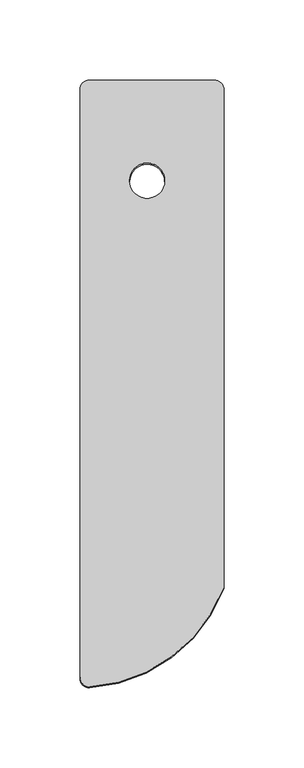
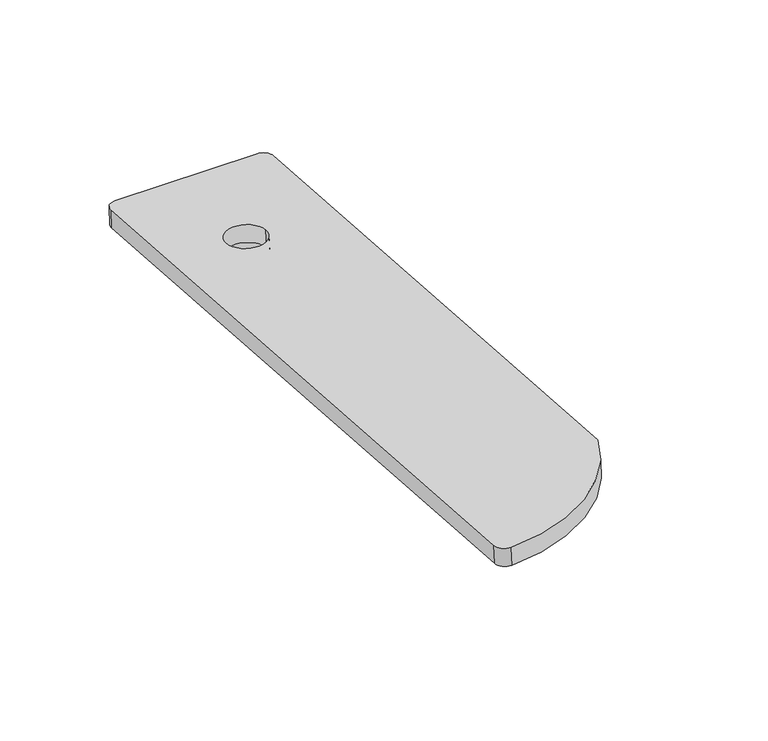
"""IFC4 building model written with IfcOpenShell, lengths in millimetres: proxy geometry, ML PhotonRoof Beaver Brick Premium : 0,5X-P."""

from ifc_helpers import new_model, si_unit, point, frame, frame_2d, origin, place, context, project, spatial, polyline, circle_curve, trimmed, segment, composite_curve, outline, extrude, source, transform, mapped, element, save


def specialty_equipment_927044ca(model_context):
    return source(origin(), model_context, "Body", "SweptSolid", [
        extrude(outline(composite_curve([segment(polyline([(0.0, -12.0), (-367.8123166, -12.0)]), True, "CONTINUOUS"), segment(trimmed(circle_curve(frame_2d((-367.8123166, -6.0)), 6.0), [point((-367.8123166, -12.0))], [point((-373.8123165, -6.0))], False, "CARTESIAN"), True, "CONTINUOUS"), segment(polyline([(-373.8123165, -6.0), (-373.8123165, 72.0)]), True, "CONTINUOUS"), segment(trimmed(circle_curve(frame_2d((-367.8123166, 72.0)), 6.0), [point((-373.8123165, 72.0))], [point((-367.8123166, 78.0))], False, "CARTESIAN"), True, "CONTINUOUS"), segment(polyline([(-367.8123166, 78.0), (-56.4057304, 78.0)]), True, "CONTINUOUS"), segment(trimmed(circle_curve(frame_2d((-89.8123166, -12.0)), 96.0), [point((-56.4057304, 78.0))], [point((5.9999999, -6.0))], False, "CARTESIAN"), True, "CONTINUOUS"), segment(trimmed(circle_curve(frame_2d((0.0, -6.0)), 6.0), [point((5.9999999, -6.0))], [point((0.0, -12.0))], False, "CARTESIAN"), True, "CONTINUOUS")], self_intersect=False), holes=[composite_curve([segment(trimmed(circle_curve(frame_2d((-310.8123165, 30.0)), 11.0), [point((-310.8123165, 41.0))], [point((-310.8123165, 19.0))], True, "CARTESIAN"), True, "CONTINUOUS"), segment(trimmed(circle_curve(frame_2d((-310.8123165, 30.0)), 11.0), [point((-310.8123165, 19.0))], [point((-310.8123165, 41.0))], True, "CARTESIAN"), True, "CONTINUOUS")], self_intersect=False)]), frame((12.0, -311.051832, 22.0746461), z_axis=(0.0, 0.0707897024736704, 0.997491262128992), x_axis=(0.0, -0.997491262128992, 0.0707897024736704)), (0.0, 0.0, 1.0), 10.0),
        extrude(outline(polyline([(44.9032038, 0.0), (44.9032038, -23.75), (-5.0967962, -23.75), (-5.0967962, 0.0), (44.9032038, 0.0)])), frame((25.0967962, 44.8719219, -17.0261079), z_axis=(0.0, 0.0707897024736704, 0.997491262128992), x_axis=(1.0, 0.0, 0.0)), (0.0, 0.0, 1.0), 13.8069239),
    ])


if __name__ == "__main__":
    model = new_model("IFC4")
    model_context = context("Model", 3, world=origin())
    ifc_project = project(units=[si_unit("LENGTHUNIT", "METRE", prefix="MILLI")], contexts=[model_context])
    site = spatial("IfcSite", under=ifc_project)
    building = spatial("IfcBuilding", under=site)
    placement = place(None, origin())
    specialty_equipment_shape = specialty_equipment_927044ca(model_context)
    element("IfcBuildingElementProxy", 1, Name="ML PhotonRoof Beaver Brick Premium : 0,5X-P", ObjectType="ML PhotonRoof Beaver Brick Premium : 0,5X-P", at=placement, inside=building, context=model_context, shape_type="MappedRepresentation", body=[
        mapped(specialty_equipment_shape, transform((0.0, 0.0, 0.0), x_axis=(1.0, 0.0, 0.0), y_axis=(0.0, 1.0, 0.0), z_axis=(0.0, 0.0, 1.0))),
    ])
    save(model, "model.ifc")
